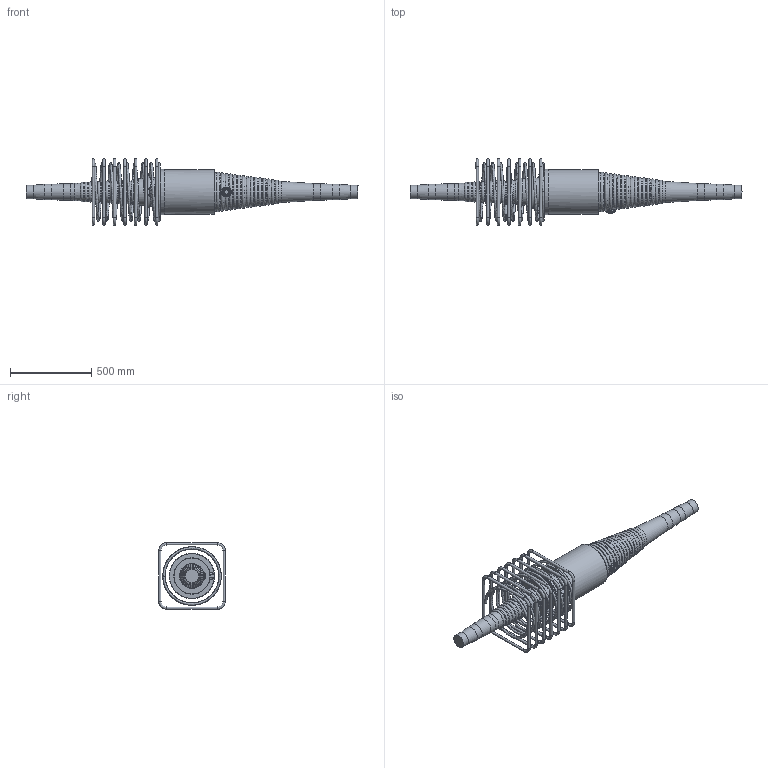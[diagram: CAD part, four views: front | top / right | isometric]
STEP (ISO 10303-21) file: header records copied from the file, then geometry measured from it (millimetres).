
FILE_DESCRIPTION(/* description */ (''),/* implementation_level */ '2;1');
FILE_NAME(/* name */ 'Z:\04 Publications\05 Give-out\BBR\6_3D_Models\BBR VT CONA CMI\BBR VT CONA CMI BT\01906\BBR VT CONA CMI BT 1906_Coupler H Assembly_CS-34,28.stp',/* time_stamp */ '2017-05-05T09:32:25+02:00',/* author */ ('IP'),/* organization */ (''),/* preprocessor_version */ 'ST-DEVELOPER v16.1',/* originating_system */ 'Autodesk Inventor 2016',/* authorisation */ '');
FILE_SCHEMA (('AUTOMOTIVE_DESIGN { 1 0 10303 214 3 1 1 }'));
Length unit declared in the file: millimetre
Products named in the file (1): BBR VT CONA CMI BT 1906_Coupler H Assembly_CS-34,28
Bounding box: 2045.13 x 410 x 410 mm (x, y, z)
Volume: 50191010.8 mm3; surface area: 2137022.9 mm2
Topology: 9 solids, 10 shells, 992 faces, 2519 edges, 1593 vertices
Faces by surface type: bspline 395, plane 304, torus 136, cylinder 113, cone 34, sphere 10
Full cylindrical faces by diameter (mm): 16 x28, 34 x2, 57 x2, 84 x2, 94 x2, 104 x2, 164 x1, 218 x1, 223.017 x1, 273 x1, 280 x1
Entity records: 40587 total; most frequent: CARTESIAN_POINT 19464, ORIENTED_EDGE 4610, DIRECTION 3294, EDGE_CURVE 2305, VERTEX_POINT 1580, EDGE_LOOP 1255, AXIS2_PLACEMENT_3D 1193, FACE_OUTER_BOUND 992
